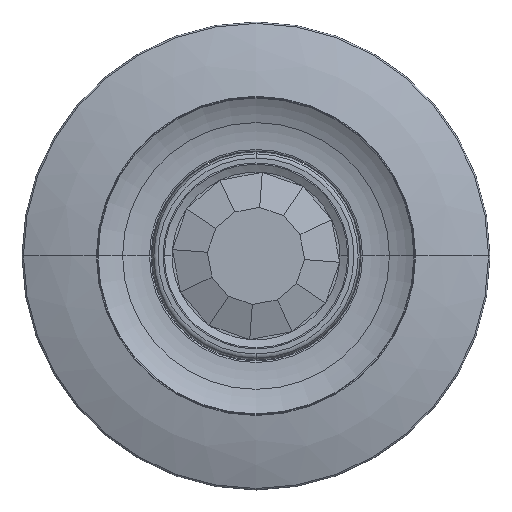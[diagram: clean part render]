
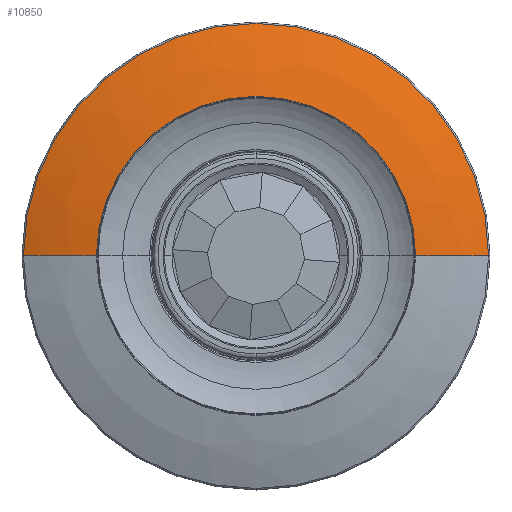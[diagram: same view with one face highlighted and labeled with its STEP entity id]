
A CAD part, top view. The second image highlights one B-rep face of the part: STEP entity #10850.
In plain terms, the highlighted free-form (B-spline) face has degree [3, 3] with [7, 4] control points.
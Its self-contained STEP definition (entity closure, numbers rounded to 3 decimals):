
#2485=CARTESIAN_POINT('',(0.,0.,12.609));
#2486=DIRECTION('',(0.,0.,1.));
#2487=DIRECTION('',(1.,0.,0.));
#2488=AXIS2_PLACEMENT_3D('',#2485,#2486,#2487);
#2493=CARTESIAN_POINT('',(-21.883,0.,-66.276));
#2494=DIRECTION('',(0.,1.,0.));
#2495=DIRECTION('',(-0.368,0.,0.93));
#2496=AXIS2_PLACEMENT_3D('',#2493,#2494,#2495);
#2501=CARTESIAN_POINT('',(0.,0.,8.126));
#2502=DIRECTION('',(0.,0.,-1.));
#2503=DIRECTION('',(-1.,0.,0.));
#2504=AXIS2_PLACEMENT_3D('',#2501,#2502,#2503);
#2509=CARTESIAN_POINT('',(21.883,0.,-66.276));
#2510=DIRECTION('',(0.,-1.,0.));
#2511=DIRECTION('',(0.368,0.,0.93));
#2512=AXIS2_PLACEMENT_3D('',#2509,#2510,#2511);
#8200=CARTESIAN_POINT('',(35.195,0.,12.609));
#8202=VERTEX_POINT('',#8200);
#8206=CARTESIAN_POINT('',(-35.195,0.,12.609));
#8207=VERTEX_POINT('',#8206);
#8208=CARTESIAN_POINT('',(51.284,0.,
8.126));
#8209=VERTEX_POINT('',#8208);
#8210=CARTESIAN_POINT('',(-51.284,0.,8.126));
#8211=VERTEX_POINT('',#8210);
#10812=CARTESIAN_POINT('',(51.493,-3.24,
8.002));
#10813=CARTESIAN_POINT('',(46.107,-2.901,
10.16));
#10814=CARTESIAN_POINT('',(40.52,-2.549,
11.721));
#10815=CARTESIAN_POINT('',(34.796,-2.189,
12.664));
#10816=CARTESIAN_POINT('',(53.487,28.449,8.002));
#10817=CARTESIAN_POINT('',(47.893,25.474,10.16));
#10818=CARTESIAN_POINT('',(42.088,22.386,11.721));
#10819=CARTESIAN_POINT('',(36.143,19.224,12.664));
#10820=CARTESIAN_POINT('',(31.752,51.595,8.002));
#10821=CARTESIAN_POINT('',(28.431,46.199,10.16));
#10822=CARTESIAN_POINT('',(24.985,40.6,11.721));
#10823=CARTESIAN_POINT('',(21.456,34.864,12.664));
#10824=CARTESIAN_POINT('',(0.,51.595,
8.002));
#10825=CARTESIAN_POINT('',(0.,46.199,
10.16));
#10826=CARTESIAN_POINT('',(0.,40.6,11.721));
#10827=CARTESIAN_POINT('',(0.,34.864,12.664));
#10828=CARTESIAN_POINT('',(-31.752,51.595,
8.002));
#10829=CARTESIAN_POINT('',(-28.431,46.199,
10.16));
#10830=CARTESIAN_POINT('',(-24.985,40.6,
11.721));
#10831=CARTESIAN_POINT('',(-21.456,34.864,
12.664));
#10832=CARTESIAN_POINT('',(-53.487,28.449,
8.002));
#10833=CARTESIAN_POINT('',(-47.893,25.474,
10.16));
#10834=CARTESIAN_POINT('',(-42.088,22.386,
11.721));
#10835=CARTESIAN_POINT('',(-36.143,19.224,
12.664));
#10836=CARTESIAN_POINT('',(-51.493,-3.24,
8.002));
#10837=CARTESIAN_POINT('',(-46.107,-2.901,
10.16));
#10838=CARTESIAN_POINT('',(-40.52,-2.549,
11.721));
#10839=CARTESIAN_POINT('',(-34.796,-2.189,
12.664));
#10840=(BOUNDED_SURFACE()B_SPLINE_SURFACE(3,3,((#10812,#10813,#10814,#10815),(
#10816,#10817,#10818,#10819),(#10820,#10821,#10822,#10823),(#10824,#10825,
#10826,#10827),(#10828,#10829,#10830,#10831),(#10832,#10833,#10834,#10835),(
#10836,#10837,#10838,#10839)),.UNSPECIFIED.,.F.,.F.,.F.)B_SPLINE_SURFACE_WITH_KNOTS((4,3,4),(4,4),(0.,1.,2.),(0.,1.),.UNSPECIFIED.)GEOMETRIC_REPRESENTATION_ITEM()RATIONAL_B_SPLINE_SURFACE(((1.191,1.186,
1.186,1.191),(0.94,0.937,
0.937,0.94),(0.94,0.937,
0.937,0.94),(1.191,1.186,
1.186,1.191),(0.94,0.937,
0.937,0.94),(0.94,0.937,
0.937,0.94),(1.191,1.186,
1.186,1.191)))REPRESENTATION_ITEM('')SURFACE());
#10842=ORIENTED_EDGE('',*,*,#10841,.T.);
#10843=ORIENTED_EDGE('',*,*,#10795,.T.);
#10845=ORIENTED_EDGE('',*,*,#10844,.F.);
#10847=ORIENTED_EDGE('',*,*,#10846,.T.);
#10848=EDGE_LOOP('',(#10842,#10843,#10845,#10847));
#10849=FACE_OUTER_BOUND('',#10848,.F.);
#2489=CIRCLE('',#2488,35.195);
#2497=CIRCLE('',#2496,80.);
#2505=CIRCLE('',#2504,51.284);
#2513=CIRCLE('',#2512,80.);
#10795=EDGE_CURVE('',#8202,#8207,#2489,.T.);
#10841=EDGE_CURVE('',#8209,#8202,#2513,.T.);
#10844=EDGE_CURVE('',#8211,#8207,#2497,.T.);
#10846=EDGE_CURVE('',#8211,#8209,#2505,.T.);
#10850=ADVANCED_FACE('',(#10849),#10840,.T.);
